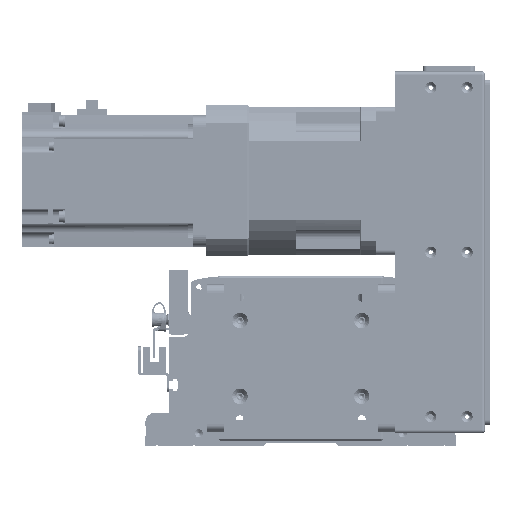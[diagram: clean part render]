
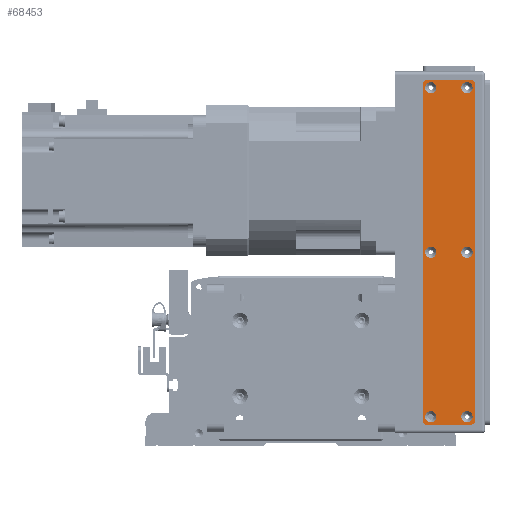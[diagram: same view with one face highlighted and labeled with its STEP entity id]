
A CAD part, front view. The second image highlights one B-rep face of the part: STEP entity #68453.
In plain terms, the highlighted planar face has unit normal (0, -1, 0).
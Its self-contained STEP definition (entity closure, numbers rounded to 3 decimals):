
#1880=FACE_BOUND('',#14329,.T.);
#1881=FACE_BOUND('',#14330,.T.);
#1882=FACE_BOUND('',#14331,.T.);
#1883=FACE_BOUND('',#14332,.T.);
#1884=FACE_BOUND('',#14333,.T.);
#1885=FACE_BOUND('',#14334,.T.);
#5218=PLANE('',#75767);
#9956=FACE_OUTER_BOUND('',#14328,.T.);
#14328=EDGE_LOOP('',(#64501,#64502,#64503,#64504,#64505,#64506,#64507,#64508));
#14329=EDGE_LOOP('',(#64509));
#14330=EDGE_LOOP('',(#64510));
#14331=EDGE_LOOP('',(#64511));
#14332=EDGE_LOOP('',(#64512));
#14333=EDGE_LOOP('',(#64513));
#14334=EDGE_LOOP('',(#64514));
#20641=LINE('',#117850,#26947);
#20642=LINE('',#117854,#26948);
#20643=LINE('',#117858,#26949);
#20644=LINE('',#117861,#26950);
#26947=VECTOR('',#95360,10.);
#26948=VECTOR('',#95363,10.);
#26949=VECTOR('',#95366,10.);
#26950=VECTOR('',#95369,10.);
#29605=CIRCLE('',#75735,3.45);
#29608=CIRCLE('',#75740,3.45);
#29611=CIRCLE('',#75745,3.45);
#29614=CIRCLE('',#75750,3.45);
#29617=CIRCLE('',#75755,3.45);
#29620=CIRCLE('',#75760,3.45);
#29623=CIRCLE('',#75765,3.);
#29625=CIRCLE('',#75768,3.);
#29626=CIRCLE('',#75769,3.);
#29627=CIRCLE('',#75770,3.);
#35906=VERTEX_POINT('',#117780);
#35909=VERTEX_POINT('',#117790);
#35912=VERTEX_POINT('',#117800);
#35915=VERTEX_POINT('',#117810);
#35918=VERTEX_POINT('',#117820);
#35921=VERTEX_POINT('',#117830);
#35924=VERTEX_POINT('',#117840);
#35925=VERTEX_POINT('',#117841);
#35928=VERTEX_POINT('',#117849);
#35929=VERTEX_POINT('',#117851);
#35930=VERTEX_POINT('',#117853);
#35931=VERTEX_POINT('',#117855);
#35932=VERTEX_POINT('',#117857);
#35933=VERTEX_POINT('',#117859);
#45425=EDGE_CURVE('',#35906,#35906,#29605,.T.);
#45430=EDGE_CURVE('',#35909,#35909,#29608,.T.);
#45435=EDGE_CURVE('',#35912,#35912,#29611,.T.);
#45440=EDGE_CURVE('',#35915,#35915,#29614,.T.);
#45445=EDGE_CURVE('',#35918,#35918,#29617,.T.);
#45450=EDGE_CURVE('',#35921,#35921,#29620,.T.);
#45455=EDGE_CURVE('',#35924,#35925,#29623,.T.);
#45459=EDGE_CURVE('',#35924,#35928,#20641,.T.);
#45460=EDGE_CURVE('',#35929,#35928,#29625,.T.);
#45461=EDGE_CURVE('',#35929,#35930,#20642,.T.);
#45462=EDGE_CURVE('',#35931,#35930,#29626,.T.);
#45463=EDGE_CURVE('',#35931,#35932,#20643,.T.);
#45464=EDGE_CURVE('',#35933,#35932,#29627,.T.);
#45465=EDGE_CURVE('',#35933,#35925,#20644,.T.);
#64501=ORIENTED_EDGE('',*,*,#45455,.F.);
#64502=ORIENTED_EDGE('',*,*,#45459,.T.);
#64503=ORIENTED_EDGE('',*,*,#45460,.F.);
#64504=ORIENTED_EDGE('',*,*,#45461,.T.);
#64505=ORIENTED_EDGE('',*,*,#45462,.F.);
#64506=ORIENTED_EDGE('',*,*,#45463,.T.);
#64507=ORIENTED_EDGE('',*,*,#45464,.F.);
#64508=ORIENTED_EDGE('',*,*,#45465,.T.);
#64509=ORIENTED_EDGE('',*,*,#45425,.T.);
#64510=ORIENTED_EDGE('',*,*,#45430,.T.);
#64511=ORIENTED_EDGE('',*,*,#45435,.T.);
#64512=ORIENTED_EDGE('',*,*,#45440,.T.);
#64513=ORIENTED_EDGE('',*,*,#45445,.T.);
#64514=ORIENTED_EDGE('',*,*,#45450,.T.);
#68453=ADVANCED_FACE('',(#9956,#1880,#1881,#1882,#1883,#1884,#1885),#5218,
 .T.);
#75735=AXIS2_PLACEMENT_3D('',#117781,#95280,#95281);
#75740=AXIS2_PLACEMENT_3D('',#117791,#95292,#95293);
#75745=AXIS2_PLACEMENT_3D('',#117801,#95304,#95305);
#75750=AXIS2_PLACEMENT_3D('',#117811,#95316,#95317);
#75755=AXIS2_PLACEMENT_3D('',#117821,#95328,#95329);
#75760=AXIS2_PLACEMENT_3D('',#117831,#95340,#95341);
#75765=AXIS2_PLACEMENT_3D('',#117842,#95352,#95353);
#75767=AXIS2_PLACEMENT_3D('',#117848,#95358,#95359);
#75768=AXIS2_PLACEMENT_3D('',#117852,#95361,#95362);
#75769=AXIS2_PLACEMENT_3D('',#117856,#95364,#95365);
#75770=AXIS2_PLACEMENT_3D('',#117860,#95367,#95368);
#95280=DIRECTION('center_axis',(0.,1.,0.));
#95281=DIRECTION('ref_axis',(1.,0.,0.));
#95292=DIRECTION('center_axis',(0.,1.,0.));
#95293=DIRECTION('ref_axis',(1.,0.,0.));
#95304=DIRECTION('center_axis',(0.,1.,0.));
#95305=DIRECTION('ref_axis',(1.,0.,0.));
#95316=DIRECTION('center_axis',(0.,1.,0.));
#95317=DIRECTION('ref_axis',(1.,0.,0.));
#95328=DIRECTION('center_axis',(0.,1.,0.));
#95329=DIRECTION('ref_axis',(1.,0.,0.));
#95340=DIRECTION('center_axis',(0.,1.,0.));
#95341=DIRECTION('ref_axis',(1.,0.,0.));
#95352=DIRECTION('center_axis',(0.,1.,0.));
#95353=DIRECTION('ref_axis',(-0.707,0.,0.707));
#95358=DIRECTION('center_axis',(0.,-1.,0.));
#95359=DIRECTION('ref_axis',(0.,0.,-1.));
#95360=DIRECTION('',(0.,0.,-1.));
#95361=DIRECTION('center_axis',(0.,1.,0.));
#95362=DIRECTION('ref_axis',(-0.707,0.,-0.707));
#95363=DIRECTION('',(1.,0.,0.));
#95364=DIRECTION('center_axis',(0.,1.,0.));
#95365=DIRECTION('ref_axis',(0.707,0.,-0.707));
#95366=DIRECTION('',(0.,0.,1.));
#95367=DIRECTION('center_axis',(0.,1.,0.));
#95368=DIRECTION('ref_axis',(0.707,0.,0.707));
#95369=DIRECTION('',(-1.,0.,0.));
#117780=CARTESIAN_POINT('',(96.55,-1.5,11.));
#117781=CARTESIAN_POINT('Origin',(100.,-1.5,11.));
#117790=CARTESIAN_POINT('',(-103.45,-1.5,-11.));
#117791=CARTESIAN_POINT('Origin',(-100.,-1.5,-11.));
#117800=CARTESIAN_POINT('',(-3.45,-1.5,11.));
#117801=CARTESIAN_POINT('Origin',(0.,-1.5,11.));
#117810=CARTESIAN_POINT('',(-3.45,-1.5,-11.));
#117811=CARTESIAN_POINT('Origin',(0.,-1.5,-11.));
#117820=CARTESIAN_POINT('',(-103.45,-1.5,11.));
#117821=CARTESIAN_POINT('Origin',(-100.,-1.5,11.));
#117830=CARTESIAN_POINT('',(96.55,-1.5,-11.));
#117831=CARTESIAN_POINT('Origin',(100.,-1.5,-11.));
#117840=CARTESIAN_POINT('',(-105.,-1.5,13.));
#117841=CARTESIAN_POINT('',(-102.,-1.5,16.));
#117842=CARTESIAN_POINT('Origin',(-102.,-1.5,13.));
#117848=CARTESIAN_POINT('Origin',(0.,-1.5,0.));
#117849=CARTESIAN_POINT('',(-105.,-1.5,-13.));
#117850=CARTESIAN_POINT('',(-105.,-1.5,16.));
#117851=CARTESIAN_POINT('',(-102.,-1.5,-16.));
#117852=CARTESIAN_POINT('Origin',(-102.,-1.5,-13.));
#117853=CARTESIAN_POINT('',(102.,-1.5,-16.));
#117854=CARTESIAN_POINT('',(-105.,-1.5,-16.));
#117855=CARTESIAN_POINT('',(105.,-1.5,-13.));
#117856=CARTESIAN_POINT('Origin',(102.,-1.5,-13.));
#117857=CARTESIAN_POINT('',(105.,-1.5,13.));
#117858=CARTESIAN_POINT('',(105.,-1.5,-16.));
#117859=CARTESIAN_POINT('',(102.,-1.5,16.));
#117860=CARTESIAN_POINT('Origin',(102.,-1.5,13.));
#117861=CARTESIAN_POINT('',(105.,-1.5,16.));
